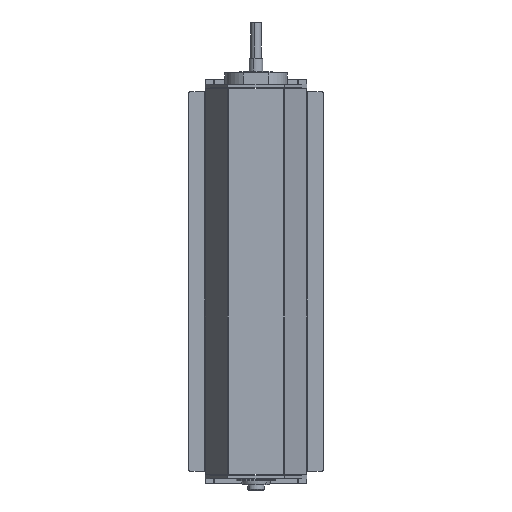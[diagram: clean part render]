
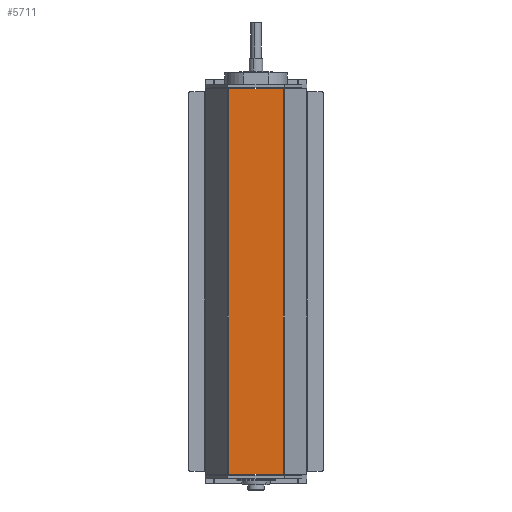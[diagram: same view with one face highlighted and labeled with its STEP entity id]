
A CAD part, front view. The second image highlights one B-rep face of the part: STEP entity #5711.
In plain terms, the highlighted planar face has unit normal (0, -1, 0).
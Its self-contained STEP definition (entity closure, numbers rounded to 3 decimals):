
#183 = FACE_OUTER_BOUND ( 'NONE', #7801, .T. ) ;
#433 = VECTOR ( 'NONE', #17073, 1000. ) ;
#450 = DIRECTION ( 'NONE',  ( 0., 1., 0. ) ) ;
#760 = ORIENTED_EDGE ( 'NONE', *, *, #6980, .T. ) ;
#1114 = ORIENTED_EDGE ( 'NONE', *, *, #4749, .F. ) ;
#1220 = ORIENTED_EDGE ( 'NONE', *, *, #9991, .F. ) ;
#1987 = CARTESIAN_POINT ( 'NONE',  ( 48.268, 0., 340.5 ) ) ;
#3304 = CARTESIAN_POINT ( 'NONE',  ( -50., 0., 340.5 ) ) ;
#3342 = DIRECTION ( 'NONE',  ( 0., 0., -1. ) ) ;
#4749 = EDGE_CURVE ( 'NONE', #17143, #10305, #6312, .T. ) ;
#5367 = VERTEX_POINT ( 'NONE', #14328 ) ;
#5578 = CARTESIAN_POINT ( 'NONE',  ( 48.268, 0., 340.5 ) ) ;
#5711 = ADVANCED_FACE ( 'NONE', ( #183 ), #16521, .F. ) ;
#5917 = CARTESIAN_POINT ( 'NONE',  ( -48.268, 0., 340.5 ) ) ;
#6312 = LINE ( 'NONE', #1987, #13431 ) ;
#6980 = EDGE_CURVE ( 'NONE', #5367, #10305, #9615, .T. ) ;
#7801 = EDGE_LOOP ( 'NONE', ( #760, #1114, #1220, #16038 ) ) ;
#8071 = CARTESIAN_POINT ( 'NONE',  ( -50., 0., -340.5 ) ) ;
#8468 = CARTESIAN_POINT ( 'NONE',  ( -50., 0., 340.5 ) ) ;
#8992 = CARTESIAN_POINT ( 'NONE',  ( -48.268, 0., 340.5 ) ) ;
#9332 = CARTESIAN_POINT ( 'NONE',  ( 48.268, 0., -340.5 ) ) ;
#9615 = LINE ( 'NONE', #8071, #15066 ) ;
#9642 = AXIS2_PLACEMENT_3D ( 'NONE', #8468, #450, #9833 ) ;
#9716 = VECTOR ( 'NONE', #16713, 1000. ) ;
#9833 = DIRECTION ( 'NONE',  ( -1., 0., 0. ) ) ;
#9991 = EDGE_CURVE ( 'NONE', #13163, #17143, #13259, .T. ) ;
#10305 = VERTEX_POINT ( 'NONE', #9332 ) ;
#11962 = EDGE_CURVE ( 'NONE', #13163, #5367, #14257, .T. ) ;
#13163 = VERTEX_POINT ( 'NONE', #5917 ) ;
#13259 = LINE ( 'NONE', #3304, #9716 ) ;
#13431 = VECTOR ( 'NONE', #3342, 1000. ) ;
#14257 = LINE ( 'NONE', #8992, #433 ) ;
#14328 = CARTESIAN_POINT ( 'NONE',  ( -48.268, 0., -340.5 ) ) ;
#14779 = DIRECTION ( 'NONE',  ( 1., 0., 0. ) ) ;
#15066 = VECTOR ( 'NONE', #14779, 1000. ) ;
#16038 = ORIENTED_EDGE ( 'NONE', *, *, #11962, .T. ) ;
#16521 = PLANE ( 'NONE',  #9642 ) ;
#16713 = DIRECTION ( 'NONE',  ( 1., 0., 0. ) ) ;
#17073 = DIRECTION ( 'NONE',  ( 0., 0., -1. ) ) ;
#17143 = VERTEX_POINT ( 'NONE', #5578 ) ;
